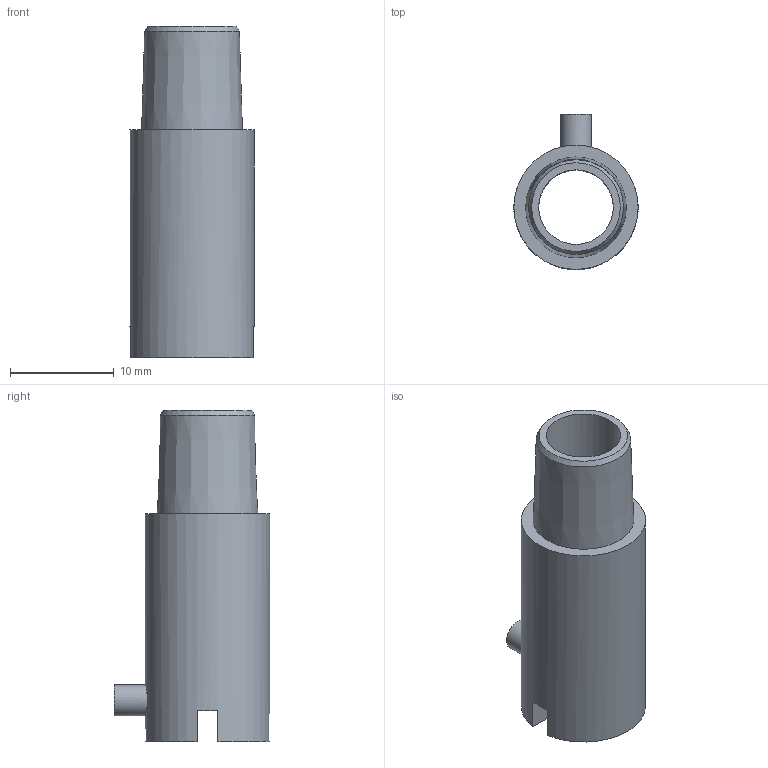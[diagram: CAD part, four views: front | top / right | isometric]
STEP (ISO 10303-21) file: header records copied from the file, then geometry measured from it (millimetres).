
FILE_DESCRIPTION (( 'STEP AP203' ), '1' );
FILE_NAME ('YIT200-2(1).STEP', '2025-07-31T08:18:33', ( '' ), ( '' ), 'SwSTEP 2.0', 'SolidWorks 2024', '' );
FILE_SCHEMA (( 'CONFIG_CONTROL_DESIGN' ));
Length unit declared in the file: millimetre
Products named in the file (1): YIT200-2(1)
Bounding box: 12 x 15 x 32 mm (x, y, z)
Volume: 1873.3 mm3; surface area: 2013.5 mm2
Topology: 1 solids, 1 shells, 16 faces, 39 edges, 26 vertices
Faces by surface type: plane 11, cylinder 3, cone 2
Full cylindrical faces by diameter (mm): 3 x1, 7.2 x1, 12 x1
Entity records: 555 total; most frequent: CARTESIAN_POINT 122, DIRECTION 78, ORIENTED_EDGE 62, AXIS2_PLACEMENT_3D 31, EDGE_CURVE 31, EDGE_LOOP 24, VERTEX_POINT 23, FACE_OUTER_BOUND 19
